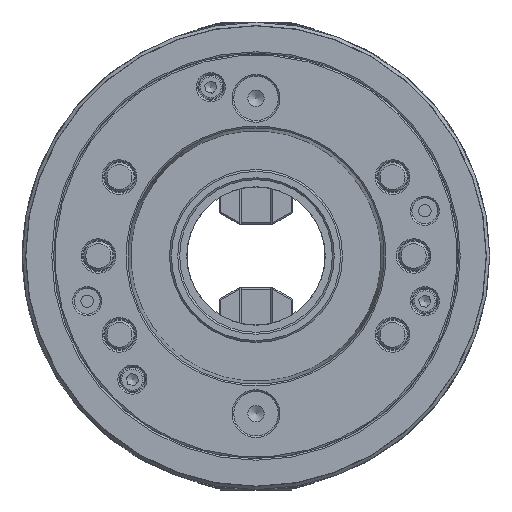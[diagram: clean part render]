
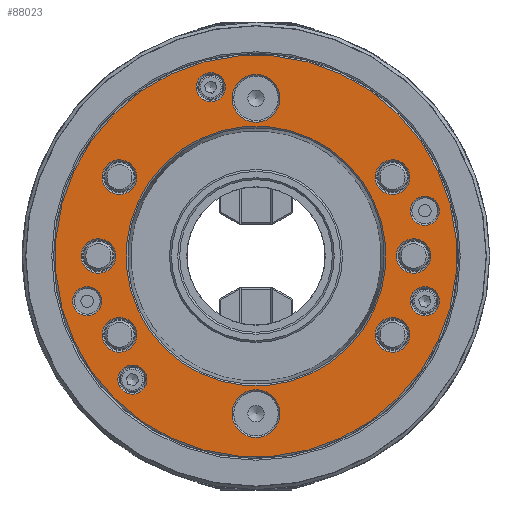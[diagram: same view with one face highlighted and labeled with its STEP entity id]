
A CAD part, front view. The second image highlights one B-rep face of the part: STEP entity #88023.
In plain terms, the highlighted planar face has unit normal (0, -1, 0).
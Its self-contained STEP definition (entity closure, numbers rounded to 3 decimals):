
#23479=PLANE('',#92654);
#26374=FACE_BOUND('',#31542,.T.);
#26375=FACE_BOUND('',#31543,.T.);
#26376=FACE_BOUND('',#31544,.T.);
#26377=FACE_BOUND('',#31545,.T.);
#26378=FACE_BOUND('',#31546,.T.);
#26379=FACE_BOUND('',#31547,.T.);
#26380=FACE_BOUND('',#31548,.T.);
#26381=FACE_BOUND('',#31549,.T.);
#26382=FACE_BOUND('',#31550,.T.);
#26383=FACE_BOUND('',#31551,.T.);
#26384=FACE_BOUND('',#31552,.T.);
#26385=FACE_BOUND('',#31553,.T.);
#26386=FACE_BOUND('',#31554,.T.);
#26387=FACE_BOUND('',#31555,.T.);
#26970=FACE_OUTER_BOUND('',#31541,.T.);
#31541=EDGE_LOOP('',(#60166));
#31542=EDGE_LOOP('',(#60167));
#31543=EDGE_LOOP('',(#60168));
#31544=EDGE_LOOP('',(#60169));
#31545=EDGE_LOOP('',(#60170));
#31546=EDGE_LOOP('',(#60171));
#31547=EDGE_LOOP('',(#60172));
#31548=EDGE_LOOP('',(#60173));
#31549=EDGE_LOOP('',(#60174));
#31550=EDGE_LOOP('',(#60175));
#31551=EDGE_LOOP('',(#60176));
#31552=EDGE_LOOP('',(#60177));
#31553=EDGE_LOOP('',(#60178));
#31554=EDGE_LOOP('',(#60179));
#31555=EDGE_LOOP('',(#60180));
#36291=CIRCLE('',#92655,109.2);
#36292=CIRCLE('',#92656,7.9);
#36293=CIRCLE('',#92657,7.9);
#36294=CIRCLE('',#92658,7.9);
#36295=CIRCLE('',#92659,7.9);
#36296=CIRCLE('',#92660,7.9);
#36297=CIRCLE('',#92661,13.);
#36298=CIRCLE('',#92662,13.);
#36299=CIRCLE('',#92663,9.4);
#36300=CIRCLE('',#92664,9.4);
#36301=CIRCLE('',#92665,9.4);
#36302=CIRCLE('',#92666,9.4);
#36303=CIRCLE('',#92667,9.4);
#36304=CIRCLE('',#92668,9.4);
#36305=CIRCLE('',#92669,70.637);
#37256=VERTEX_POINT('',#123701);
#37257=VERTEX_POINT('',#123703);
#37258=VERTEX_POINT('',#123705);
#37259=VERTEX_POINT('',#123707);
#37260=VERTEX_POINT('',#123709);
#37261=VERTEX_POINT('',#123711);
#37262=VERTEX_POINT('',#123713);
#37263=VERTEX_POINT('',#123715);
#37264=VERTEX_POINT('',#123717);
#37265=VERTEX_POINT('',#123719);
#37266=VERTEX_POINT('',#123721);
#37267=VERTEX_POINT('',#123723);
#37268=VERTEX_POINT('',#123725);
#37269=VERTEX_POINT('',#123727);
#37270=VERTEX_POINT('',#123729);
#46219=EDGE_CURVE('',#37256,#37256,#36291,.T.);
#46220=EDGE_CURVE('',#37257,#37257,#36292,.T.);
#46221=EDGE_CURVE('',#37258,#37258,#36293,.T.);
#46222=EDGE_CURVE('',#37259,#37259,#36294,.T.);
#46223=EDGE_CURVE('',#37260,#37260,#36295,.T.);
#46224=EDGE_CURVE('',#37261,#37261,#36296,.T.);
#46225=EDGE_CURVE('',#37262,#37262,#36297,.T.);
#46226=EDGE_CURVE('',#37263,#37263,#36298,.T.);
#46227=EDGE_CURVE('',#37264,#37264,#36299,.T.);
#46228=EDGE_CURVE('',#37265,#37265,#36300,.T.);
#46229=EDGE_CURVE('',#37266,#37266,#36301,.T.);
#46230=EDGE_CURVE('',#37267,#37267,#36302,.T.);
#46231=EDGE_CURVE('',#37268,#37268,#36303,.T.);
#46232=EDGE_CURVE('',#37269,#37269,#36304,.T.);
#46233=EDGE_CURVE('',#37270,#37270,#36305,.T.);
#60166=ORIENTED_EDGE('',*,*,#46219,.T.);
#60167=ORIENTED_EDGE('',*,*,#46220,.T.);
#60168=ORIENTED_EDGE('',*,*,#46221,.T.);
#60169=ORIENTED_EDGE('',*,*,#46222,.T.);
#60170=ORIENTED_EDGE('',*,*,#46223,.T.);
#60171=ORIENTED_EDGE('',*,*,#46224,.T.);
#60172=ORIENTED_EDGE('',*,*,#46225,.T.);
#60173=ORIENTED_EDGE('',*,*,#46226,.T.);
#60174=ORIENTED_EDGE('',*,*,#46227,.T.);
#60175=ORIENTED_EDGE('',*,*,#46228,.T.);
#60176=ORIENTED_EDGE('',*,*,#46229,.T.);
#60177=ORIENTED_EDGE('',*,*,#46230,.T.);
#60178=ORIENTED_EDGE('',*,*,#46231,.T.);
#60179=ORIENTED_EDGE('',*,*,#46232,.T.);
#60180=ORIENTED_EDGE('',*,*,#46233,.T.);
#88023=ADVANCED_FACE('',(#26970,#26374,#26375,#26376,#26377,#26378,#26379,
#26380,#26381,#26382,#26383,#26384,#26385,#26386,#26387),#23479,.T.);
#92654=AXIS2_PLACEMENT_3D('',#123700,#99978,#99979);
#92655=AXIS2_PLACEMENT_3D('',#123702,#99980,#99981);
#92656=AXIS2_PLACEMENT_3D('',#123704,#99982,#99983);
#92657=AXIS2_PLACEMENT_3D('',#123706,#99984,#99985);
#92658=AXIS2_PLACEMENT_3D('',#123708,#99986,#99987);
#92659=AXIS2_PLACEMENT_3D('',#123710,#99988,#99989);
#92660=AXIS2_PLACEMENT_3D('',#123712,#99990,#99991);
#92661=AXIS2_PLACEMENT_3D('',#123714,#99992,#99993);
#92662=AXIS2_PLACEMENT_3D('',#123716,#99994,#99995);
#92663=AXIS2_PLACEMENT_3D('',#123718,#99996,#99997);
#92664=AXIS2_PLACEMENT_3D('',#123720,#99998,#99999);
#92665=AXIS2_PLACEMENT_3D('',#123722,#100000,#100001);
#92666=AXIS2_PLACEMENT_3D('',#123724,#100002,#100003);
#92667=AXIS2_PLACEMENT_3D('',#123726,#100004,#100005);
#92668=AXIS2_PLACEMENT_3D('',#123728,#100006,#100007);
#92669=AXIS2_PLACEMENT_3D('',#123730,#100008,#100009);
#99978=DIRECTION('center_axis',(0.,-1.,0.));
#99979=DIRECTION('ref_axis',(-0.966,0.,-0.259));
#99980=DIRECTION('center_axis',(0.,-1.,0.));
#99981=DIRECTION('ref_axis',(-0.259,0.,0.966));
#99982=DIRECTION('center_axis',(0.,1.,0.));
#99983=DIRECTION('ref_axis',(-0.707,0.,-0.707));
#99984=DIRECTION('center_axis',(0.,1.,0.));
#99985=DIRECTION('ref_axis',(0.966,0.,-0.259));
#99986=DIRECTION('center_axis',(0.,1.,0.));
#99987=DIRECTION('ref_axis',(-0.259,0.,0.966));
#99988=DIRECTION('center_axis',(0.,1.,0.));
#99989=DIRECTION('ref_axis',(0.259,0.,-0.966));
#99990=DIRECTION('center_axis',(0.,1.,0.));
#99991=DIRECTION('ref_axis',(-0.259,0.,0.966));
#99992=DIRECTION('center_axis',(0.,1.,0.));
#99993=DIRECTION('ref_axis',(0.259,0.,-0.966));
#99994=DIRECTION('center_axis',(0.,1.,0.));
#99995=DIRECTION('ref_axis',(-0.259,0.,0.966));
#99996=DIRECTION('center_axis',(0.,1.,0.));
#99997=DIRECTION('ref_axis',(0.259,0.,-0.966));
#99998=DIRECTION('center_axis',(0.,1.,0.));
#99999=DIRECTION('ref_axis',(0.259,0.,-0.966));
#100000=DIRECTION('center_axis',(0.,1.,0.));
#100001=DIRECTION('ref_axis',(0.259,0.,-0.966));
#100002=DIRECTION('center_axis',(0.,1.,0.));
#100003=DIRECTION('ref_axis',(-0.259,0.,0.966));
#100004=DIRECTION('center_axis',(0.,1.,0.));
#100005=DIRECTION('ref_axis',(-0.259,0.,0.966));
#100006=DIRECTION('center_axis',(0.,1.,0.));
#100007=DIRECTION('ref_axis',(-0.259,0.,0.966));
#100008=DIRECTION('center_axis',(0.,1.,0.));
#100009=DIRECTION('ref_axis',(-0.259,0.,0.966));
#123700=CARTESIAN_POINT('Origin',(28.47,-13.,-106.252));
#123701=CARTESIAN_POINT('',(28.263,-13.,-105.479));
#123702=CARTESIAN_POINT('Origin',(0.,-13.,0.));
#123703=CARTESIAN_POINT('',(-19.002,-13.,97.349));
#123704=CARTESIAN_POINT('Origin',(-24.588,-13.,91.763));
#123705=CARTESIAN_POINT('',(-74.806,-13.,-65.13));
#123706=CARTESIAN_POINT('Origin',(-67.175,-13.,-67.175));
#123707=CARTESIAN_POINT('',(93.808,-13.,-32.219));
#123708=CARTESIAN_POINT('Origin',(91.763,-13.,-24.588));
#123709=CARTESIAN_POINT('',(-93.808,-13.,-16.957));
#123710=CARTESIAN_POINT('Origin',(-91.763,-13.,-24.588));
#123711=CARTESIAN_POINT('',(93.808,-13.,16.957));
#123712=CARTESIAN_POINT('Origin',(91.763,-13.,24.588));
#123713=CARTESIAN_POINT('',(-3.365,-13.,-73.143));
#123714=CARTESIAN_POINT('Origin',(0.,-13.,-85.7));
#123715=CARTESIAN_POINT('',(3.365,-13.,73.143));
#123716=CARTESIAN_POINT('Origin',(0.,-13.,85.7));
#123717=CARTESIAN_POINT('',(-76.651,-13.,51.93));
#123718=CARTESIAN_POINT('Origin',(-74.218,-13.,42.85));
#123719=CARTESIAN_POINT('',(-88.133,-13.,9.08));
#123720=CARTESIAN_POINT('Origin',(-85.7,-13.,0.));
#123721=CARTESIAN_POINT('',(-76.651,-13.,-33.77));
#123722=CARTESIAN_POINT('Origin',(-74.218,-13.,-42.85));
#123723=CARTESIAN_POINT('',(76.651,-13.,-51.93));
#123724=CARTESIAN_POINT('Origin',(74.218,-13.,-42.85));
#123725=CARTESIAN_POINT('',(88.133,-13.,-9.08));
#123726=CARTESIAN_POINT('Origin',(85.7,-13.,0.));
#123727=CARTESIAN_POINT('',(76.651,-13.,33.77));
#123728=CARTESIAN_POINT('Origin',(74.218,-13.,42.85));
#123729=CARTESIAN_POINT('',(18.282,-13.,-68.23));
#123730=CARTESIAN_POINT('Origin',(0.,-13.,0.));
